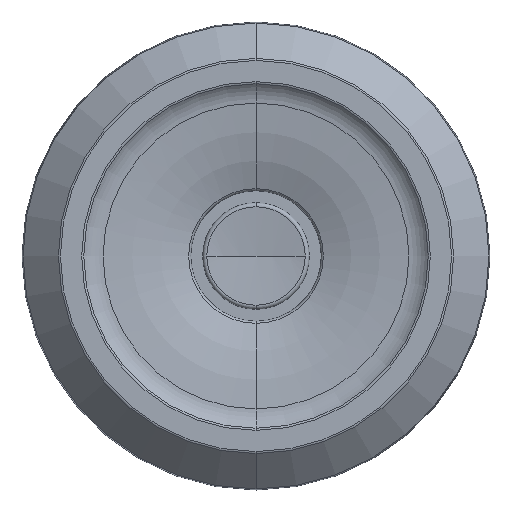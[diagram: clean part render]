
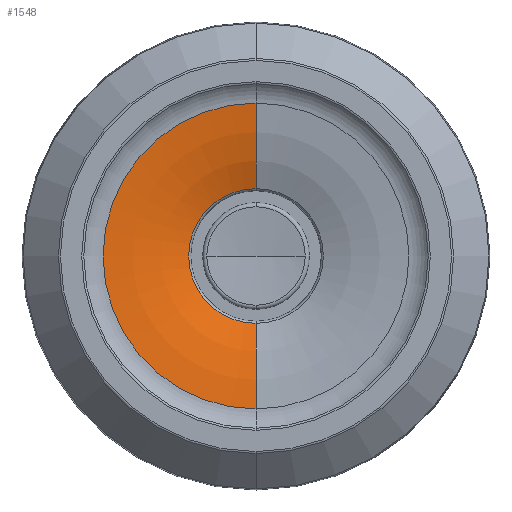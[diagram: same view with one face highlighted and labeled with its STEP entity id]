
A CAD part, front view. The second image highlights one B-rep face of the part: STEP entity #1548.
In plain terms, the highlighted toroidal (fillet/blend) face has major radius 14.171 mm and minor radius 22 mm.
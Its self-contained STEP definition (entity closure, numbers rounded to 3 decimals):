
#157 = EDGE_LOOP ( 'NONE', ( #1608, #1284, #1532, #1515 ) ) ;
#473 = CIRCLE ( 'NONE', #474, 22. ) ;
#474 = AXIS2_PLACEMENT_3D ( 'NONE', #475, #476, #477 ) ;
#475 = CARTESIAN_POINT ( 'NONE',  ( 0., 19.97, -14.171 ) ) ;
#476 = DIRECTION ( 'NONE',  ( -1., 0., 0. ) ) ;
#477 = DIRECTION ( 'NONE',  ( 0., 0., 1. ) ) ;
#478 = CIRCLE ( 'NONE', #479, 12.901 ) ;
#479 = AXIS2_PLACEMENT_3D ( 'NONE', #480, #482, #483 ) ;
#480 = CARTESIAN_POINT ( 'NONE',  ( 0., -1.993, 0. ) ) ;
#482 = DIRECTION ( 'NONE',  ( 0., -1., 0. ) ) ;
#483 = DIRECTION ( 'NONE',  ( 0., 0., -1. ) ) ;
#615 = CIRCLE ( 'NONE', #616, 22. ) ;
#616 = AXIS2_PLACEMENT_3D ( 'NONE', #617, #620, #621 ) ;
#617 = CARTESIAN_POINT ( 'NONE',  ( 0., 19.97, 14.171 ) ) ;
#620 = DIRECTION ( 'NONE',  ( 1., 0., 0. ) ) ;
#621 = DIRECTION ( 'NONE',  ( 0., 0., -1. ) ) ;
#733 = CARTESIAN_POINT ( 'NONE',  ( 0., -0.327, -5.684 ) ) ;
#741 = CARTESIAN_POINT ( 'NONE',  ( 0., -0.327, 5.684 ) ) ;
#785 = CIRCLE ( 'NONE', #786, 5.684 ) ;
#786 = AXIS2_PLACEMENT_3D ( 'NONE', #787, #788, #789 ) ;
#787 = CARTESIAN_POINT ( 'NONE',  ( 0., -0.327, 0. ) ) ;
#788 = DIRECTION ( 'NONE',  ( 0., -1., 0. ) ) ;
#789 = DIRECTION ( 'NONE',  ( 0., 0., -1. ) ) ;
#797 = CARTESIAN_POINT ( 'NONE',  ( 0., -1.993, 12.901 ) ) ;
#818 = CARTESIAN_POINT ( 'NONE',  ( 0., -1.993, -12.901 ) ) ;
#916 = EDGE_CURVE ( 'NONE', #1709, #1260, #478, .T. ) ;
#959 = FACE_OUTER_BOUND ( 'NONE', #157, .T. ) ;
#960 = TOROIDAL_SURFACE ( 'NONE', #961, 14.171, 22. ) ;
#961 = AXIS2_PLACEMENT_3D ( 'NONE', #962, #963, #964 ) ;
#962 = CARTESIAN_POINT ( 'NONE',  ( 0., 19.97, 0. ) ) ;
#963 = DIRECTION ( 'NONE',  ( 0., -1., 0. ) ) ;
#964 = DIRECTION ( 'NONE',  ( 0., 0., -1. ) ) ;
#1260 = VERTEX_POINT ( 'NONE', #818 ) ;
#1284 = ORIENTED_EDGE ( 'NONE', *, *, #916, .T. ) ;
#1327 = EDGE_CURVE ( 'NONE', #1260, #1701, #473, .T. ) ;
#1481 = EDGE_CURVE ( 'NONE', #1709, #1501, #615, .T. ) ;
#1501 = VERTEX_POINT ( 'NONE', #741 ) ;
#1515 = ORIENTED_EDGE ( 'NONE', *, *, #1708, .F. ) ;
#1532 = ORIENTED_EDGE ( 'NONE', *, *, #1327, .T. ) ;
#1548 = ADVANCED_FACE ( 'NONE', ( #959 ), #960, .T. ) ;
#1608 = ORIENTED_EDGE ( 'NONE', *, *, #1481, .F. ) ;
#1701 = VERTEX_POINT ( 'NONE', #733 ) ;
#1708 = EDGE_CURVE ( 'NONE', #1501, #1701, #785, .T. ) ;
#1709 = VERTEX_POINT ( 'NONE', #797 ) ;
